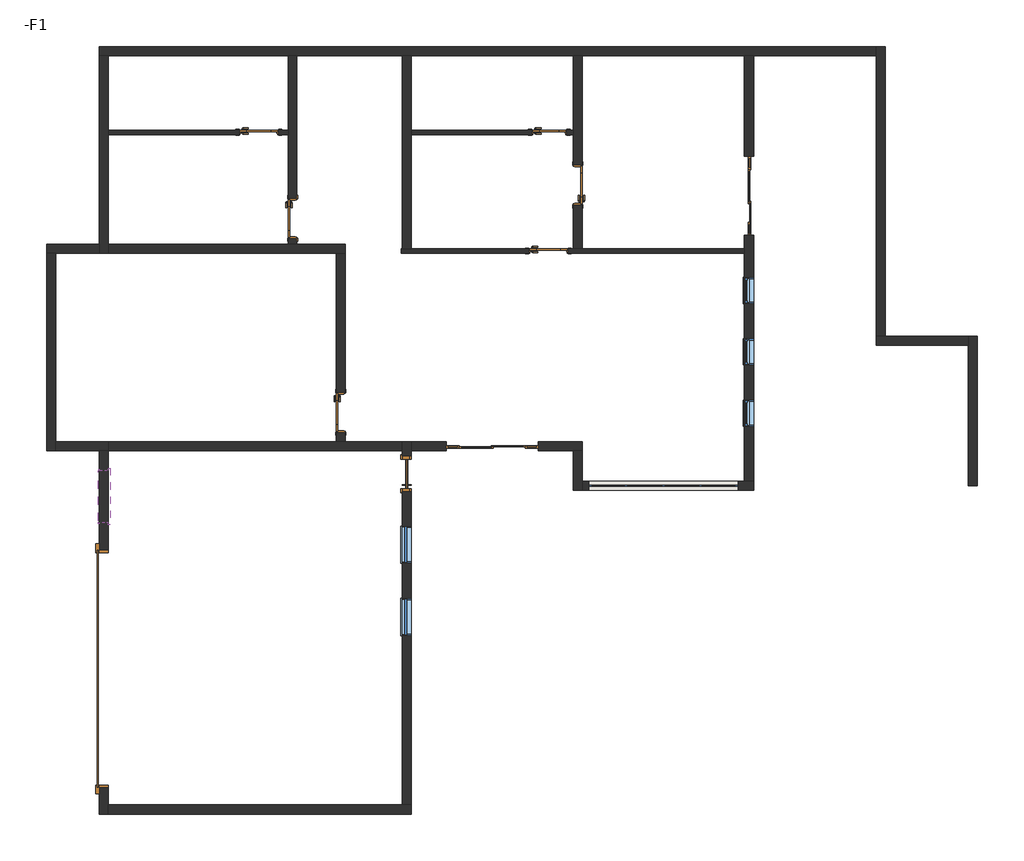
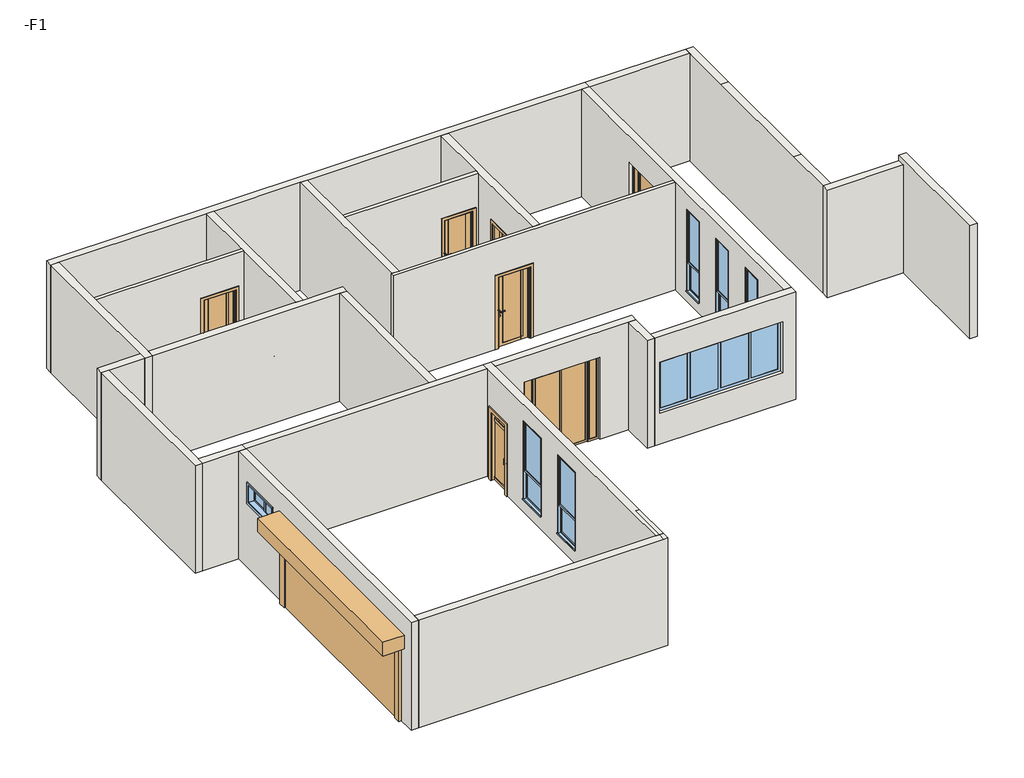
# One storey: 24 walls, 10 doors, 7 windows.
"""IFC4 building model written with IfcOpenShell, lengths in millimetres."""

from ifc_helpers import new_model, si_unit, frame, origin, place, context, project, spatial, polyline, outline, extrude, faceted_brep, transform, mapped, element, save
from components import door_800_x_2100_mm_cdd5fc6d, door_900_x_2100_mm_c85060e9, door_900_x_2100_mm_efe0f083, jlm5422_f6e8e53c, m0821_c18f4d9a, ym2124_6b214408, ym3267_00a1a1f0, c0624_d918e3f5, c0823_e49a13fc, c1206_2babd59b, c3415_a57d7b54

model = new_model("IFC4")

# Units and contexts
model_context = context("Model", 3, world=origin())
ifc_project = project(units=[si_unit("LENGTHUNIT", "METRE", prefix="MILLI")], contexts=[model_context])

# Site, building, storey
site = spatial("IfcSite", under=ifc_project)
building = spatial("IfcBuilding", under=site)
storey = spatial("IfcBuildingStorey", under=building, Name="-F1", Elevation=-3300.0)

# Doors
placement = place(None, origin())
door_800_x_2100_mm_shape = door_800_x_2100_mm_cdd5fc6d(model_context)
element("IfcDoor", 1, ObjectType="单扇平开门-木门 : 800 x 2100 mm", at=placement, inside=storey, context=model_context, shape_type="MappedRepresentation", body=[
    mapped(door_800_x_2100_mm_shape, transform((-6705.9782681, -1381.0286905, -3300.0), x_axis=(1.0, 0.0, 0.0), y_axis=(0.0, 1.0, 0.0), z_axis=(0.0, 0.0, 1.0))),
])
door_900_x_2100_mm_shape = door_900_x_2100_mm_c85060e9(model_context)
element("IfcDoor", 2, ObjectType="单扇平开门-木门 : 900 x 2100 mm", at=placement, inside=storey, context=model_context, shape_type="MappedRepresentation", body=[
    mapped(door_900_x_2100_mm_shape, transform((-6055.9782681, -2581.0286905, -3300.0), x_axis=(0.0, 1.0, 0.0), y_axis=(-1.0, 0.0, 0.0), z_axis=(0.0, 0.0, 1.0))),
])
element("IfcDoor", 3, ObjectType="单扇平开门-木门 : 900 x 2100 mm", at=placement, inside=storey, context=model_context, shape_type="MappedRepresentation", body=[
    mapped(door_900_x_2100_mm_shape, transform((-12555.9782681, -3341.0286905, -3300.0), x_axis=(0.0, -1.0, 0.0), y_axis=(1.0, 0.0, 0.0), z_axis=(0.0, 0.0, 1.0))),
])
element("IfcDoor", 4, ObjectType="单扇平开门-木门 : 900 x 2100 mm", at=placement, inside=storey, context=model_context, shape_type="MappedRepresentation", body=[
    mapped(door_900_x_2100_mm_shape, transform((-11455.9782681, -7761.0286905, -3300.0), x_axis=(0.0, -1.0, 0.0), y_axis=(1.0, 0.0, 0.0), z_axis=(0.0, 0.0, 1.0))),
])
door_900_x_2100_mm_2_shape = door_900_x_2100_mm_efe0f083(model_context)
element("IfcDoor", 5, ObjectType="单扇平开门-木门 : 900 x 2100 mm", at=placement, inside=storey, context=model_context, shape_type="MappedRepresentation", body=[
    mapped(door_900_x_2100_mm_2_shape, transform((-6725.9782681, -4081.0286905, -3300.0), x_axis=(1.0, 0.0, 0.0), y_axis=(0.0, 1.0, 0.0), z_axis=(0.0, 0.0, 1.0))),
])
element("IfcDoor", 6, ObjectType="单扇平开门-木门 : 900 x 2100 mm", at=placement, inside=storey, context=model_context, shape_type="MappedRepresentation", body=[
    mapped(door_900_x_2100_mm_2_shape, transform((-13325.9782681, -1381.0286905, -3300.0), x_axis=(1.0, 0.0, 0.0), y_axis=(0.0, 1.0, 0.0), z_axis=(0.0, 0.0, 1.0))),
])
jlm5422_shape = jlm5422_f6e8e53c(model_context)
element("IfcDoor", 7, ObjectType="卷帘门 : JLM5422", at=placement, inside=storey, context=model_context, shape_type="MappedRepresentation", body=[
    mapped(jlm5422_shape, transform((-16855.9782681, -13606.0286905, -3300.0), x_axis=(0.0, 1.0, 0.0), y_axis=(-1.0, 0.0, 0.0), z_axis=(0.0, 0.0, 1.0))),
])
m0821_shape = m0821_c18f4d9a(model_context)
element("IfcDoor", 8, ObjectType="平开玻璃门B-单扇2 : M0821", at=placement, inside=storey, context=model_context, shape_type="MappedRepresentation", body=[
    mapped(m0821_shape, transform((-9955.9782681, -8911.0286905, -3300.0), x_axis=(0.0, 1.0, 0.0), y_axis=(-1.0, 0.0, 0.0), z_axis=(0.0, 0.0, 1.0))),
])
ym2124_shape = ym2124_6b214408(model_context)
element("IfcDoor", 9, ObjectType="移门-推拉门 : YM2124", at=placement, inside=storey, context=model_context, shape_type="MappedRepresentation", body=[
    mapped(ym2124_shape, transform((-8005.9782681, -8531.0286905, -3300.0), x_axis=(-1.0, 0.0, 0.0), y_axis=(0.0, -1.0, 0.0), z_axis=(0.0, 0.0, 1.0))),
])
ym3267_shape = ym3267_00a1a1f0(model_context)
element("IfcDoor", 10, ObjectType="移门-推拉门 : YM3267", at=placement, inside=storey, context=model_context, shape_type="MappedRepresentation", body=[
    mapped(ym3267_shape, transform((-2155.9782681, -2831.0286905, -3300.0), x_axis=(0.0, -1.0, 0.0), y_axis=(1.0, 0.0, 0.0), z_axis=(0.0, 0.0, 1.0))),
])

# Walls
element("IfcWall", 11, ObjectType="外饰面 - 200mm", at=placement, inside=storey, context=model_context, shape_type="Brep", body=[
    faceted_brep([(3049.0217319, -9431.0286905, -3300.0), (3049.0217319, -6026.0286905, -3300.0), (3049.0217319, -6026.0286905, 0.0), (3049.0217319, -9431.0286905, 0.0), (2839.0217319, -9431.0286905, -3300.0), (2839.0217319, -9431.0286905, 0.0), (2839.0217319, -6026.0286905, 0.0), (2839.0217319, -6026.0286905, -150.0), (2839.0217319, -6026.0286905, -3300.0), (2839.0217319, -6236.0286905, -3300.0)], [[[0, 1, 2, 3]], [[4, 5, 6, 7, 8, 9]], [[1, 0, 4, 9, 8]], [[3, 2, 6, 5]], [[0, 3, 5, 4]], [[2, 1, 8, 7, 6]]]),
])
element("IfcWall", 12, ObjectType="外饰面 - 200mm", at=placement, inside=storey, context=model_context, shape_type="Brep", body=[
    faceted_brep([(2839.0217319, -6026.0286905, -3300.0), (949.0217319, -6026.0286905, -3300.0), (739.0217319, -6026.0286905, -3300.0), (739.0217319, -6026.0286905, -150.0), (949.0217319, -6026.0286905, -150.0), (2839.0217319, -6026.0286905, -150.0), (2839.0217319, -6236.0286905, -3300.0), (2839.0217319, -6236.0286905, -150.0), (739.0217319, -6236.0286905, -150.0), (739.0217319, -6236.0286905, -3300.0)], [[[0, 1, 2, 3, 4, 5]], [[6, 7, 8, 9]], [[2, 1, 0, 6, 9]], [[5, 4, 3, 8, 7]], [[0, 5, 7, 6]], [[3, 2, 9, 8]]]),
])
element("IfcWall", 13, ObjectType="外饰面 - 200mm", at=placement, inside=storey, context=model_context, shape_type="Brep", body=[
    faceted_brep([(949.0217319, -6026.0286905, -3300.0), (949.0217319, 573.9713095, -3300.0), (949.0217319, 573.9713095, -150.0), (949.0217319, -1118.8242174, -150.0), (949.0217319, -4618.8242174, -150.0), (949.0217319, -6026.0286905, -150.0), (739.0217319, -6026.0286905, -3300.0), (739.0217319, -6026.0286905, -150.0), (739.0217319, -4618.8242174, -150.0), (739.0217319, -1118.8242174, -150.0), (739.0217319, 363.9713095, -150.0), (739.0217319, 573.9713095, -150.0), (739.0217319, 573.9713095, -3300.0), (739.0217319, 363.9713095, -3300.0)], [[[0, 1, 2, 3, 4, 5]], [[6, 7, 8, 9, 10, 11, 12, 13]], [[0, 5, 7, 6]], [[2, 1, 12, 11]], [[1, 0, 6, 13, 12]], [[3, 2, 11, 10, 9]], [[5, 4, 8, 7]], [[4, 3, 9, 8]]]),
])
element("IfcWall", 14, ObjectType="外饰面 - 200mm", at=placement, inside=storey, context=model_context, shape_type="Brep", body=[
    faceted_brep([(739.0217319, 573.9713095, -3300.0), (-16960.9782681, 573.9713095, -3300.0), (-16960.9782681, 573.9713095, -150.0), (-2035.9782681, 573.9713095, -150.0), (739.0217319, 573.9713095, -150.0), (739.0217319, 363.9713095, -3300.0), (739.0217319, 363.9713095, -150.0), (-2035.9782681, 363.9713095, -150.0), (-2050.9782681, 363.9713095, -150.0), (-2260.9782681, 363.9713095, -150.0), (-5955.9782681, 363.9713095, -150.0), (-6155.9782681, 363.9713095, -150.0), (-9855.9782681, 363.9713095, -150.0), (-10055.9782681, 363.9713095, -150.0), (-12455.9782681, 363.9713095, -150.0), (-12655.9782681, 363.9713095, -150.0), (-16750.9782681, 363.9713095, -150.0), (-16960.9782681, 363.9713095, -150.0), (-16960.9782681, 363.9713095, -3300.0), (-16750.9782681, 363.9713095, -3300.0), (-12655.9782681, 363.9713095, -3300.0), (-12455.9782681, 363.9713095, -3300.0), (-10055.9782681, 363.9713095, -3300.0), (-9855.9782681, 363.9713095, -3300.0), (-6155.9782681, 363.9713095, -3300.0), (-5955.9782681, 363.9713095, -3300.0), (-2260.9782681, 363.9713095, -3300.0), (-2050.9782681, 363.9713095, -3300.0)], [[[0, 1, 2, 3, 4]], [[5, 6, 7, 8, 9, 10, 11, 12, 13, 14, 15, 16, 17, 18, 19, 20, 21, 22, 23, 24, 25, 26, 27]], [[1, 0, 5, 27, 26, 25, 24, 23, 22, 21, 20, 19, 18]], [[0, 4, 6, 5]], [[2, 1, 18, 17]], [[4, 3, 7, 6]], [[3, 2, 17, 16, 15, 14, 13, 12, 11, 10, 9, 8, 7]]]),
])
element("IfcWall", 15, ObjectType="外饰面 - 200mm", at=placement, inside=storey, context=model_context, shape_type="Brep", body=[
    faceted_brep([(-16960.9782681, 363.9713095, -3300.0), (-16960.9782681, -3926.0286905, -3300.0), (-16960.9782681, -4136.0286905, -3300.0), (-16960.9782681, -4136.0286905, -150.0), (-16960.9782681, -3926.0286905, -150.0), (-16960.9782681, 363.9713095, -150.0), (-16750.9782681, 363.9713095, -3300.0), (-16750.9782681, 363.9713095, -150.0), (-16750.9782681, -1331.0286905, -150.0), (-16750.9782681, -1431.0286905, -150.0), (-16750.9782681, -3931.0286905, -150.0), (-16750.9782681, -4131.0286905, -150.0), (-16750.9782681, -4136.0286905, -150.0), (-16750.9782681, -4136.0286905, -3300.0), (-16750.9782681, -4131.0286905, -3300.0), (-16750.9782681, -3931.0286905, -3300.0), (-16750.9782681, -1431.0286905, -3300.0), (-16750.9782681, -1331.0286905, -3300.0)], [[[0, 1, 2, 3, 4, 5]], [[6, 7, 8, 9, 10, 11, 12, 13, 14, 15, 16, 17]], [[2, 1, 0, 6, 17, 16, 15, 14, 13]], [[0, 5, 7, 6]], [[3, 2, 13, 12]], [[5, 4, 3, 12, 11, 10, 9, 8, 7]]]),
])
element("IfcWall", 16, ObjectType="外饰面 - 200mm", at=placement, inside=storey, context=model_context, shape_type="Brep", body=[
    faceted_brep([(-16960.9782681, -3926.0286905, -3300.0), (-18160.9782681, -3926.0286905, -3300.0), (-18160.9782681, -3926.0286905, -150.0), (-16960.9782681, -3926.0286905, -150.0), (-16960.9782681, -4136.0286905, -3300.0), (-16960.9782681, -4136.0286905, -150.0), (-17950.9782681, -4136.0286905, -150.0), (-18160.9782681, -4136.0286905, -150.0), (-18160.9782681, -4136.0286905, -3300.0), (-17950.9782681, -4136.0286905, -3300.0)], [[[0, 1, 2, 3]], [[4, 5, 6, 7, 8, 9]], [[1, 0, 4, 9, 8]], [[0, 3, 5, 4]], [[2, 1, 8, 7]], [[3, 2, 7, 6, 5]]]),
])
element("IfcWall", 17, ObjectType="外饰面 - 200mm", at=placement, inside=storey, context=model_context, shape_type="Brep", body=[
    faceted_brep([(-18160.9782681, -4136.0286905, -3300.0), (-18160.9782681, -8636.0286905, -3300.0), (-18160.9782681, -8636.0286905, -150.0), (-18160.9782681, -4136.0286905, -150.0), (-17950.9782681, -4136.0286905, -3300.0), (-17950.9782681, -4136.0286905, -150.0), (-17950.9782681, -8426.0286905, -150.0), (-17950.9782681, -8636.0286905, -150.0), (-17950.9782681, -8636.0286905, -3300.0), (-17950.9782681, -8426.0286905, -3300.0)], [[[0, 1, 2, 3]], [[4, 5, 6, 7, 8, 9]], [[1, 0, 4, 9, 8]], [[0, 3, 5, 4]], [[2, 1, 8, 7]], [[3, 2, 7, 6, 5]]]),
])
element("IfcWall", 18, ObjectType="外饰面 - 200mm", at=placement, inside=storey, context=model_context, shape_type="Brep", body=[
    faceted_brep([(-17950.9782681, -8636.0286905, -3300.0), (-16960.9782681, -8636.0286905, -3300.0), (-16750.9782681, -8636.0286905, -3300.0), (-16750.9782681, -8636.0286905, -150.0), (-16960.9782681, -8636.0286905, -150.0), (-17950.9782681, -8636.0286905, -150.0), (-17950.9782681, -8426.0286905, -3300.0), (-17950.9782681, -8426.0286905, -150.0), (-16750.9782681, -8426.0286905, -150.0), (-16750.9782681, -8426.0286905, -3300.0), (-16750.9782681, -8431.0286905, -3300.0), (-16750.9782681, -8631.0286905, -3300.0), (-16750.9782681, -8431.0286905, -150.0), (-16750.9782681, -8631.0286905, -150.0)], [[[0, 1, 2, 3, 4, 5]], [[6, 7, 8, 9]], [[2, 1, 0, 6, 9, 10, 11]], [[0, 5, 7, 6]], [[3, 2, 11, 10, 9, 8, 12, 13]], [[5, 4, 3, 13, 12, 8, 7]]]),
])
element("IfcWall", 19, ObjectType="外饰面 - 200mm", at=placement, inside=storey, context=model_context, shape_type="Brep", body=[
    faceted_brep([(-16960.9782681, -8636.0286905, -150.0), (-16960.9782681, -8636.0286905, -3300.0), (-16960.9782681, -10906.0286905, -3300.0), (-16960.9782681, -10906.0286905, -1100.0), (-16960.9782681, -16306.0286905, -1100.0), (-16960.9782681, -16306.0286905, -3300.0), (-16960.9782681, -16916.0286905, -3300.0), (-16960.9782681, -16916.0286905, -150.0), (-16960.9782681, -10281.0286905, -800.0), (-16960.9782681, -10281.0286905, -1400.0), (-16960.9782681, -9081.0286905, -1400.0), (-16960.9782681, -9081.0286905, -800.0), (-16750.9782681, -8636.0286905, -3300.0), (-16750.9782681, -8636.0286905, -150.0), (-16750.9782681, -16706.0286905, -150.0), (-16750.9782681, -16916.0286905, -150.0), (-16750.9782681, -16916.0286905, -3300.0), (-16750.9782681, -16706.0286905, -3300.0), (-16750.9782681, -16306.0286905, -3300.0), (-16750.9782681, -16306.0286905, -1100.0), (-16750.9782681, -10906.0286905, -1100.0), (-16750.9782681, -10906.0286905, -3300.0), (-16750.9782681, -10281.0286905, -800.0), (-16750.9782681, -9081.0286905, -800.0), (-16750.9782681, -9081.0286905, -1400.0), (-16750.9782681, -10281.0286905, -1400.0)], [[[0, 1, 2, 3, 4, 5, 6, 7], [8, 9, 10, 11]], [[12, 13, 14, 15, 16, 17, 18, 19, 20, 21], [22, 23, 24, 25]], [[1, 12, 21, 2]], [[16, 6, 5, 18, 17]], [[1, 0, 13, 12]], [[7, 6, 16, 15]], [[9, 8, 22, 25]], [[10, 9, 25, 24]], [[11, 10, 24, 23]], [[8, 11, 23, 22]], [[20, 3, 2, 21]], [[3, 20, 19, 4]], [[4, 19, 18, 5]], [[0, 7, 15, 14, 13]]]),
])
element("IfcWall", 20, ObjectType="外饰面 - 200mm", at=placement, inside=storey, context=model_context, shape_type="Brep", body=[
    faceted_brep([(-16750.9782681, -16916.0286905, -3300.0), (-9850.9782681, -16916.0286905, -3300.0), (-9850.9782681, -16916.0286905, -150.0), (-9955.9782681, -16916.0286905, -150.0), (-16750.9782681, -16916.0286905, -150.0), (-16750.9782681, -16706.0286905, -3300.0), (-16750.9782681, -16706.0286905, -150.0), (-10060.9782681, -16706.0286905, -150.0), (-9955.9782681, -16706.0286905, -150.0), (-9850.9782681, -16706.0286905, -150.0), (-9850.9782681, -16706.0286905, -3300.0), (-10060.9782681, -16706.0286905, -3300.0)], [[[0, 1, 2, 3, 4]], [[5, 6, 7, 8, 9, 10, 11]], [[1, 0, 5, 11, 10]], [[0, 4, 6, 5]], [[2, 1, 10, 9]], [[3, 2, 9, 8]], [[4, 3, 8, 7, 6]]]),
])
element("IfcWall", 21, ObjectType="外饰面 - 200mm", at=placement, inside=storey, context=model_context, shape_type="Brep", body=[
    faceted_brep([(-9850.9782681, -8751.0286905, -1200.0), (-9850.9782681, -8751.0286905, -3300.0), (-9850.9782681, -8636.0286905, -3300.0), (-9850.9782681, -8426.0286905, -3300.0), (-9850.9782681, -8426.0286905, -150.0), (-9850.9782681, -8636.0286905, -150.0), (-9850.9782681, -15551.0286905, -150.0), (-9850.9782681, -16706.0286905, -150.0), (-9850.9782681, -16706.0286905, -3300.0), (-9850.9782681, -9571.0286905, -3300.0), (-9850.9782681, -9571.0286905, -1200.0), (-9850.9782681, -12001.0286905, -625.0), (-9850.9782681, -12001.0286905, -2925.0), (-9850.9782681, -12851.0286905, -2925.0), (-9850.9782681, -12851.0286905, -625.0), (-9850.9782681, -10351.0286905, -625.0), (-9850.9782681, -10351.0286905, -2925.0), (-9850.9782681, -11201.0286905, -2925.0), (-9850.9782681, -11201.0286905, -625.0), (-10060.9782681, -8426.0286905, -3300.0), (-10060.9782681, -8431.0286905, -3300.0), (-10060.9782681, -8631.0286905, -3300.0), (-10060.9782681, -8751.0286905, -3300.0), (-10060.9782681, -8751.0286905, -1200.0), (-10060.9782681, -9571.0286905, -1200.0), (-10060.9782681, -9571.0286905, -3300.0), (-10060.9782681, -16706.0286905, -3300.0), (-10060.9782681, -16706.0286905, -150.0), (-10060.9782681, -15551.0286905, -150.0), (-10060.9782681, -8631.0286905, -150.0), (-10060.9782681, -8431.0286905, -150.0), (-10060.9782681, -8426.0286905, -150.0), (-10060.9782681, -12001.0286905, -625.0), (-10060.9782681, -12851.0286905, -625.0), (-10060.9782681, -12851.0286905, -2925.0), (-10060.9782681, -12001.0286905, -2925.0), (-10060.9782681, -10351.0286905, -625.0), (-10060.9782681, -11201.0286905, -625.0), (-10060.9782681, -11201.0286905, -2925.0), (-10060.9782681, -10351.0286905, -2925.0), (-9955.9782681, -16706.0286905, -150.0), (-9955.9782681, -15551.0286905, -150.0)], [[[0, 1, 2, 3, 4, 5, 6, 7, 8, 9, 10], [11, 12, 13, 14], [15, 16, 17, 18]], [[19, 20, 21, 22, 23, 24, 25, 26, 27, 28, 29, 30, 31], [32, 33, 34, 35], [36, 37, 38, 39]], [[9, 8, 26, 25]], [[3, 2, 1, 22, 21, 20, 19]], [[8, 7, 40, 27, 26]], [[31, 4, 3, 19]], [[12, 11, 32, 35]], [[13, 12, 35, 34]], [[14, 13, 34, 33]], [[11, 14, 33, 32]], [[16, 15, 36, 39]], [[17, 16, 39, 38]], [[18, 17, 38, 37]], [[15, 18, 37, 36]], [[25, 24, 10, 9]], [[23, 22, 1, 0]], [[24, 23, 0, 10]], [[7, 6, 41, 40]], [[6, 5, 4, 31, 30, 29, 28, 27, 40, 41]]]),
])
element("IfcWall", 22, ObjectType="外饰面 - 200mm", at=placement, inside=storey, context=model_context, shape_type="Brep", body=[
    faceted_brep([(-9850.9782681, -8636.0286905, -150.0), (-9850.9782681, -8636.0286905, -3300.0), (-9055.9782681, -8636.0286905, -3300.0), (-9055.9782681, -8636.0286905, -900.0), (-6955.9782681, -8636.0286905, -900.0), (-6955.9782681, -8636.0286905, -3300.0), (-6160.9782681, -8636.0286905, -3300.0), (-5950.9782681, -8636.0286905, -3300.0), (-5950.9782681, -8636.0286905, -150.0), (-6160.9782681, -8636.0286905, -150.0), (-9850.9782681, -8426.0286905, -3300.0), (-9850.9782681, -8426.0286905, -150.0), (-5950.9782681, -8426.0286905, -150.0), (-5950.9782681, -8426.0286905, -3300.0), (-6955.9782681, -8426.0286905, -3300.0), (-6955.9782681, -8426.0286905, -900.0), (-9055.9782681, -8426.0286905, -900.0), (-9055.9782681, -8426.0286905, -3300.0)], [[[0, 1, 2, 3, 4, 5, 6, 7, 8, 9]], [[10, 11, 12, 13, 14, 15, 16, 17]], [[1, 10, 17, 2]], [[13, 7, 6, 5, 14]], [[1, 0, 11, 10]], [[8, 7, 13, 12]], [[16, 3, 2, 17]], [[3, 16, 15, 4]], [[4, 15, 14, 5]], [[0, 9, 8, 12, 11]]]),
])
element("IfcWall", 23, ObjectType="外饰面 - 200mm", at=placement, inside=storey, context=model_context, shape_type="Brep", body=[
    faceted_brep([(-6160.9782681, -8636.0286905, -3300.0), (-6160.9782681, -9536.0286905, -3300.0), (-6160.9782681, -9536.0286905, -150.0), (-6160.9782681, -8636.0286905, -150.0), (-5950.9782681, -8636.0286905, -3300.0), (-5950.9782681, -8636.0286905, -150.0), (-5950.9782681, -9326.0286905, -150.0), (-5950.9782681, -9536.0286905, -150.0), (-5950.9782681, -9536.0286905, -3300.0), (-5950.9782681, -9326.0286905, -3300.0)], [[[0, 1, 2, 3]], [[4, 5, 6, 7, 8, 9]], [[1, 0, 4, 9, 8]], [[0, 3, 5, 4]], [[2, 1, 8, 7]], [[3, 2, 7, 6, 5]]]),
])
element("IfcWall", 24, ObjectType="外饰面 - 200mm", at=placement, inside=storey, context=model_context, shape_type="Brep", body=[
    faceted_brep([(-5950.9782681, -9536.0286905, -3300.0), (-2050.9782681, -9536.0286905, -3300.0), (-2050.9782681, -9536.0286905, -150.0), (-5950.9782681, -9536.0286905, -150.0), (-5805.9782681, -9536.0286905, -2400.0), (-5805.9782681, -9536.0286905, -900.0), (-2405.9782681, -9536.0286905, -900.0), (-2405.9782681, -9536.0286905, -2400.0), (-2050.9782681, -9326.0286905, -3300.0), (-2260.9782681, -9326.0286905, -3300.0), (-5950.9782681, -9326.0286905, -3300.0), (-5950.9782681, -9326.0286905, -150.0), (-2260.9782681, -9326.0286905, -150.0), (-2050.9782681, -9326.0286905, -150.0), (-5805.9782681, -9326.0286905, -900.0), (-5805.9782681, -9326.0286905, -2400.0), (-2405.9782681, -9326.0286905, -2400.0), (-2405.9782681, -9326.0286905, -900.0)], [[[0, 1, 2, 3], [4, 5, 6, 7]], [[8, 9, 10, 11, 12, 13], [14, 15, 16, 17]], [[1, 0, 10, 9, 8]], [[0, 3, 11, 10]], [[2, 1, 8, 13]], [[3, 2, 13, 12, 11]], [[4, 15, 14, 5]], [[6, 17, 16, 7]], [[15, 4, 7, 16]], [[17, 6, 5, 14]]]),
])
element("IfcWall", 25, ObjectType="外饰面 - 200mm", at=placement, inside=storey, context=model_context, shape_type="Brep", body=[
    faceted_brep([(-2050.9782681, -9326.0286905, -150.0), (-2050.9782681, -9326.0286905, -3300.0), (-2050.9782681, -3731.0286905, -3300.0), (-2050.9782681, -3731.0286905, -900.0), (-2050.9782681, -1931.0286905, -900.0), (-2050.9782681, -1931.0286905, -3300.0), (-2050.9782681, 363.9713095, -3300.0), (-2050.9782681, 363.9713095, -150.0), (-2050.9782681, -4681.0286905, -600.0), (-2050.9782681, -4681.0286905, -3000.0), (-2050.9782681, -5281.0286905, -3000.0), (-2050.9782681, -5281.0286905, -600.0), (-2050.9782681, -6081.0286905, -600.0), (-2050.9782681, -6081.0286905, -3000.0), (-2050.9782681, -6681.0286905, -3000.0), (-2050.9782681, -6681.0286905, -600.0), (-2050.9782681, -7481.0286905, -600.0), (-2050.9782681, -7481.0286905, -3000.0), (-2050.9782681, -8081.0286905, -3000.0), (-2050.9782681, -8081.0286905, -600.0), (-2260.9782681, -9326.0286905, -3300.0), (-2260.9782681, -9326.0286905, -150.0), (-2260.9782681, -4131.0286905, -150.0), (-2260.9782681, -4031.0286905, -150.0), (-2260.9782681, 363.9713095, -150.0), (-2260.9782681, 363.9713095, -3300.0), (-2260.9782681, -1931.0286905, -3300.0), (-2260.9782681, -1931.0286905, -900.0), (-2260.9782681, -3731.0286905, -900.0), (-2260.9782681, -3731.0286905, -3300.0), (-2260.9782681, -4031.0286905, -3300.0), (-2260.9782681, -4131.0286905, -3300.0), (-2260.9782681, -4681.0286905, -600.0), (-2260.9782681, -5281.0286905, -600.0), (-2260.9782681, -5281.0286905, -3000.0), (-2260.9782681, -4681.0286905, -3000.0), (-2260.9782681, -6081.0286905, -600.0), (-2260.9782681, -6681.0286905, -600.0), (-2260.9782681, -6681.0286905, -3000.0), (-2260.9782681, -6081.0286905, -3000.0), (-2260.9782681, -7481.0286905, -600.0), (-2260.9782681, -8081.0286905, -600.0), (-2260.9782681, -8081.0286905, -3000.0), (-2260.9782681, -7481.0286905, -3000.0)], [[[0, 1, 2, 3, 4, 5, 6, 7], [8, 9, 10, 11], [12, 13, 14, 15], [16, 17, 18, 19]], [[20, 21, 22, 23, 24, 25, 26, 27, 28, 29, 30, 31], [32, 33, 34, 35], [36, 37, 38, 39], [40, 41, 42, 43]], [[1, 20, 31, 30, 29, 2]], [[25, 6, 5, 26]], [[1, 0, 21, 20]], [[7, 6, 25, 24]], [[9, 8, 32, 35]], [[10, 9, 35, 34]], [[11, 10, 34, 33]], [[8, 11, 33, 32]], [[13, 12, 36, 39]], [[14, 13, 39, 38]], [[15, 14, 38, 37]], [[12, 15, 37, 36]], [[17, 16, 40, 43]], [[18, 17, 43, 42]], [[19, 18, 42, 41]], [[16, 19, 41, 40]], [[28, 3, 2, 29]], [[3, 28, 27, 4]], [[4, 27, 26, 5]], [[0, 7, 24, 23, 22, 21]]]),
])
element("IfcWall", 26, ObjectType="常规 - 200mm - 实心", at=placement, inside=storey, context=model_context, shape_type="Brep", body=[
    faceted_brep([(-6155.9782681, 363.9713095, -150.0), (-6155.9782681, 363.9713095, -3300.0), (-6155.9782681, -1331.0286905, -3300.0), (-6155.9782681, -1431.0286905, -3300.0), (-6155.9782681, -2131.0286905, -3300.0), (-6155.9782681, -2131.0286905, -1200.0), (-6155.9782681, -3031.0286905, -1200.0), (-6155.9782681, -3031.0286905, -3300.0), (-6155.9782681, -4031.0286905, -3300.0), (-6155.9782681, -4031.0286905, -150.0), (-6155.9782681, -1431.0286905, -150.0), (-6155.9782681, -1331.0286905, -150.0), (-5955.9782681, 363.9713095, -3300.0), (-5955.9782681, 363.9713095, -150.0), (-5955.9782681, -4031.0286905, -150.0), (-5955.9782681, -4031.0286905, -3300.0), (-5955.9782681, -3031.0286905, -3300.0), (-5955.9782681, -3031.0286905, -1200.0), (-5955.9782681, -2131.0286905, -1200.0), (-5955.9782681, -2131.0286905, -3300.0)], [[[0, 1, 2, 3, 4, 5, 6, 7, 8, 9, 10, 11]], [[12, 13, 14, 15, 16, 17, 18, 19]], [[1, 12, 19, 4, 3, 2]], [[15, 8, 7, 16]], [[1, 0, 13, 12]], [[9, 8, 15, 14]], [[18, 5, 4, 19]], [[5, 18, 17, 6]], [[6, 17, 16, 7]], [[0, 11, 10, 9, 14, 13]]]),
])
element("IfcWall", 27, ObjectType="常规 - 200mm - 实心", at=placement, inside=storey, context=model_context, shape_type="Brep", body=[
    faceted_brep([(-10055.9782681, 363.9713095, -3300.0), (-10055.9782681, -4031.0286905, -3300.0), (-10055.9782681, -4031.0286905, -150.0), (-10055.9782681, 363.9713095, -150.0), (-9855.9782681, 363.9713095, -3300.0), (-9855.9782681, 363.9713095, -150.0), (-9855.9782681, -1331.0286905, -150.0), (-9855.9782681, -1431.0286905, -150.0), (-9855.9782681, -4031.0286905, -150.0), (-9855.9782681, -4031.0286905, -3300.0), (-9855.9782681, -1431.0286905, -3300.0), (-9855.9782681, -1331.0286905, -3300.0)], [[[0, 1, 2, 3]], [[4, 5, 6, 7, 8, 9, 10, 11]], [[1, 0, 4, 11, 10, 9]], [[0, 3, 5, 4]], [[3, 2, 8, 7, 6, 5]], [[2, 1, 9, 8]]]),
])
element("IfcWall", 28, ObjectType="常规 - 200mm - 实心", at=placement, inside=storey, context=model_context, shape_type="Brep", body=[
    faceted_brep([(-12655.9782681, 363.9713095, -150.0), (-12655.9782681, 363.9713095, -3300.0), (-12655.9782681, -1331.0286905, -3300.0), (-12655.9782681, -1431.0286905, -3300.0), (-12655.9782681, -2891.0286905, -3300.0), (-12655.9782681, -2891.0286905, -1200.0), (-12655.9782681, -3791.0286905, -1200.0), (-12655.9782681, -3791.0286905, -3300.0), (-12655.9782681, -3931.0286905, -3300.0), (-12655.9782681, -3931.0286905, -150.0), (-12655.9782681, -1431.0286905, -150.0), (-12655.9782681, -1331.0286905, -150.0), (-12455.9782681, 363.9713095, -3300.0), (-12455.9782681, 363.9713095, -150.0), (-12455.9782681, -3931.0286905, -150.0), (-12455.9782681, -3931.0286905, -3300.0), (-12455.9782681, -3791.0286905, -3300.0), (-12455.9782681, -3791.0286905, -1200.0), (-12455.9782681, -2891.0286905, -1200.0), (-12455.9782681, -2891.0286905, -3300.0)], [[[0, 1, 2, 3, 4, 5, 6, 7, 8, 9, 10, 11]], [[12, 13, 14, 15, 16, 17, 18, 19]], [[1, 12, 19, 4, 3, 2]], [[15, 8, 7, 16]], [[1, 0, 13, 12]], [[9, 8, 15, 14]], [[6, 17, 16, 7]], [[17, 6, 5, 18]], [[18, 5, 4, 19]], [[0, 11, 10, 9, 14, 13]]]),
])
element("IfcWall", 29, ObjectType="常规 - 200mm - 实心", at=placement, inside=storey, context=model_context, shape_type="Brep", body=[
    faceted_brep([(-16750.9782681, -4131.0286905, -3300.0), (-11555.9782681, -4131.0286905, -3300.0), (-11355.9782681, -4131.0286905, -3300.0), (-11355.9782681, -4131.0286905, -150.0), (-11555.9782681, -4131.0286905, -150.0), (-16750.9782681, -4131.0286905, -150.0), (-16750.9782681, -3931.0286905, -3300.0), (-16750.9782681, -3931.0286905, -150.0), (-12655.9782681, -3931.0286905, -150.0), (-12455.9782681, -3931.0286905, -150.0), (-11355.9782681, -3931.0286905, -150.0), (-11355.9782681, -3931.0286905, -3300.0), (-12455.9782681, -3931.0286905, -3300.0), (-12655.9782681, -3931.0286905, -3300.0)], [[[0, 1, 2, 3, 4, 5]], [[6, 7, 8, 9, 10, 11, 12, 13]], [[2, 1, 0, 6, 13, 12, 11]], [[0, 5, 7, 6]], [[3, 2, 11, 10]], [[5, 4, 3, 10, 9, 8, 7]]]),
])
element("IfcWall", 30, ObjectType="常规 - 200mm - 实心", at=placement, inside=storey, context=model_context, shape_type="SweptSolid", body=[
    extrude(outline(polyline([(-4131.0286905, -150.0), (-4131.0286905, -3300.0), (-7311.0286905, -3300.0), (-7311.0286905, -1200.0), (-8211.0286905, -1200.0), (-8211.0286905, -3300.0), (-8431.0286905, -3300.0), (-8431.0286905, -150.0), (-4131.0286905, -150.0)])), frame((-11555.9782681, 0.0, 0.0), z_axis=(1.0, 0.0, 0.0), x_axis=(0.0, 1.0, 0.0)), (0.0, 0.0, 1.0), 200.0),
])
element("IfcWall", 31, ObjectType="常规 - 200mm - 实心", at=placement, inside=storey, context=model_context, shape_type="Brep", body=[
    faceted_brep([(-16750.9782681, -8631.0286905, -3300.0), (-10060.9782681, -8631.0286905, -3300.0), (-10060.9782681, -8631.0286905, -150.0), (-16750.9782681, -8631.0286905, -150.0), (-16750.9782681, -8431.0286905, -3300.0), (-16750.9782681, -8431.0286905, -150.0), (-11555.9782681, -8431.0286905, -150.0), (-11355.9782681, -8431.0286905, -150.0), (-10060.9782681, -8431.0286905, -150.0), (-10060.9782681, -8431.0286905, -3300.0), (-11355.9782681, -8431.0286905, -3300.0), (-11555.9782681, -8431.0286905, -3300.0)], [[[0, 1, 2, 3]], [[4, 5, 6, 7, 8, 9, 10, 11]], [[1, 0, 4, 11, 10, 9]], [[0, 3, 5, 4]], [[2, 1, 9, 8]], [[3, 2, 8, 7, 6, 5]]]),
])
element("IfcWall", 32, ObjectType="常规 - 100mm 砌体", at=placement, inside=storey, context=model_context, shape_type="SweptSolid", body=[
    extrude(outline(polyline([(-150.0, -16750.9782681), (-3300.0, -16750.9782681), (-3300.0, -13775.9782681), (-1200.0, -13775.9782681), (-1200.0, -12875.9782681), (-3300.0, -12875.9782681), (-3300.0, -12655.9782681), (-150.0, -12655.9782681), (-150.0, -16750.9782681)])), frame((0.0, -1431.0286905, 0.0), z_axis=(0.0, 1.0, 0.0), x_axis=(0.0, 0.0, 1.0)), (0.0, 0.0, 1.0), 100.0),
])
element("IfcWall", 33, ObjectType="常规 - 100mm 砌体", at=placement, inside=storey, context=model_context, shape_type="SweptSolid", body=[
    extrude(outline(polyline([(-3300.0, -6155.9782681), (-150.0, -6155.9782681), (-150.0, -9855.9782681), (-3300.0, -9855.9782681), (-3300.0, -7105.9782681), (-1200.0, -7105.9782681), (-1200.0, -6305.9782681), (-3300.0, -6305.9782681), (-3300.0, -6155.9782681)])), frame((0.0, -1431.0286905, 0.0), z_axis=(0.0, 1.0, 0.0), x_axis=(0.0, 0.0, 1.0)), (0.0, 0.0, 1.0), 100.0),
])
element("IfcWall", 34, ObjectType="常规 - 100mm 砌体", at=placement, inside=storey, context=model_context, shape_type="Brep", body=[
    faceted_brep([(-10075.9782681, -4131.0286905, -150.0), (-10075.9782681, -4131.0286905, -3300.0), (-7175.9782681, -4131.0286905, -3300.0), (-7175.9782681, -4131.0286905, -1200.0), (-6275.9782681, -4131.0286905, -1200.0), (-6275.9782681, -4131.0286905, -3300.0), (-2260.9782681, -4131.0286905, -3300.0), (-2260.9782681, -4131.0286905, -150.0), (-10075.9782681, -4031.0286905, -3300.0), (-10075.9782681, -4031.0286905, -150.0), (-10055.9782681, -4031.0286905, -150.0), (-9855.9782681, -4031.0286905, -150.0), (-6155.9782681, -4031.0286905, -150.0), (-5955.9782681, -4031.0286905, -150.0), (-2260.9782681, -4031.0286905, -150.0), (-2260.9782681, -4031.0286905, -3300.0), (-5955.9782681, -4031.0286905, -3300.0), (-6155.9782681, -4031.0286905, -3300.0), (-6275.9782681, -4031.0286905, -3300.0), (-6275.9782681, -4031.0286905, -1200.0), (-7175.9782681, -4031.0286905, -1200.0), (-7175.9782681, -4031.0286905, -3300.0), (-9855.9782681, -4031.0286905, -3300.0), (-10055.9782681, -4031.0286905, -3300.0)], [[[0, 1, 2, 3, 4, 5, 6, 7]], [[8, 9, 10, 11, 12, 13, 14, 15, 16, 17, 18, 19, 20, 21, 22, 23]], [[1, 8, 23, 22, 21, 2]], [[15, 6, 5, 18, 17, 16]], [[1, 0, 9, 8]], [[7, 6, 15, 14]], [[4, 19, 18, 5]], [[19, 4, 3, 20]], [[20, 3, 2, 21]], [[0, 7, 14, 13, 12, 11, 10, 9]]]),
])

# Windows
c0624_shape = c0624_d918e3f5(model_context)
element("IfcWindow", 35, ObjectType="上下拉窗1 : C0624", at=placement, inside=storey, context=model_context, shape_type="MappedRepresentation", body=[
    mapped(c0624_shape, transform((-2156.2167284, -4981.0286905, -3300.0), x_axis=(0.0, 1.0, 0.0), y_axis=(-1.0, 0.0, 0.0), z_axis=(0.0, 0.0, 1.0))),
])
element("IfcWindow", 36, ObjectType="上下拉窗1 : C0624", at=placement, inside=storey, context=model_context, shape_type="MappedRepresentation", body=[
    mapped(c0624_shape, transform((-2156.2167284, -6381.0286905, -3300.0), x_axis=(0.0, 1.0, 0.0), y_axis=(-1.0, 0.0, 0.0), z_axis=(0.0, 0.0, 1.0))),
])
element("IfcWindow", 37, ObjectType="上下拉窗1 : C0624", at=placement, inside=storey, context=model_context, shape_type="MappedRepresentation", body=[
    mapped(c0624_shape, transform((-2156.2167284, -7781.0286905, -3300.0), x_axis=(0.0, 1.0, 0.0), y_axis=(-1.0, 0.0, 0.0), z_axis=(0.0, 0.0, 1.0))),
])
c0823_shape = c0823_e49a13fc(model_context)
element("IfcWindow", 38, ObjectType="上下拉窗1 : C0823", at=placement, inside=storey, context=model_context, shape_type="MappedRepresentation", body=[
    mapped(c0823_shape, transform((-9956.2167284, -12426.0286905, -3225.0), x_axis=(0.0, 1.0, 0.0), y_axis=(-1.0, 0.0, 0.0), z_axis=(0.0, 0.0, 1.0))),
])
element("IfcWindow", 39, ObjectType="上下拉窗1 : C0823", at=placement, inside=storey, context=model_context, shape_type="MappedRepresentation", body=[
    mapped(c0823_shape, transform((-9956.2167284, -10776.0286905, -3225.0), x_axis=(0.0, 1.0, 0.0), y_axis=(-1.0, 0.0, 0.0), z_axis=(0.0, 0.0, 1.0))),
])
c1206_shape = c1206_2babd59b(model_context)
element("IfcWindow", 40, ObjectType="推拉窗5 - 带贴面 : C1206", at=placement, inside=storey, context=model_context, shape_type="MappedRepresentation", body=[
    mapped(c1206_shape, transform((-16789.1048306, -9671.5036905, -2305.0), x_axis=(0.0, -1.0, 0.0), y_axis=(1.0, 0.0, 0.0), z_axis=(0.0, 0.0, 1.0))),
])
c3415_shape = c3415_a57d7b54(model_context)
element("IfcWindow", 41, ObjectType="窗户 : C3415", at=placement, inside=storey, context=model_context, shape_type="MappedRepresentation", body=[
    mapped(c3415_shape, transform((-4105.9782681, -9431.0286905, -3200.0), x_axis=(1.0, 0.0, 0.0), y_axis=(0.0, 1.0, 0.0), z_axis=(0.0, 0.0, 1.0))),
])

save(model, "model.ifc")
